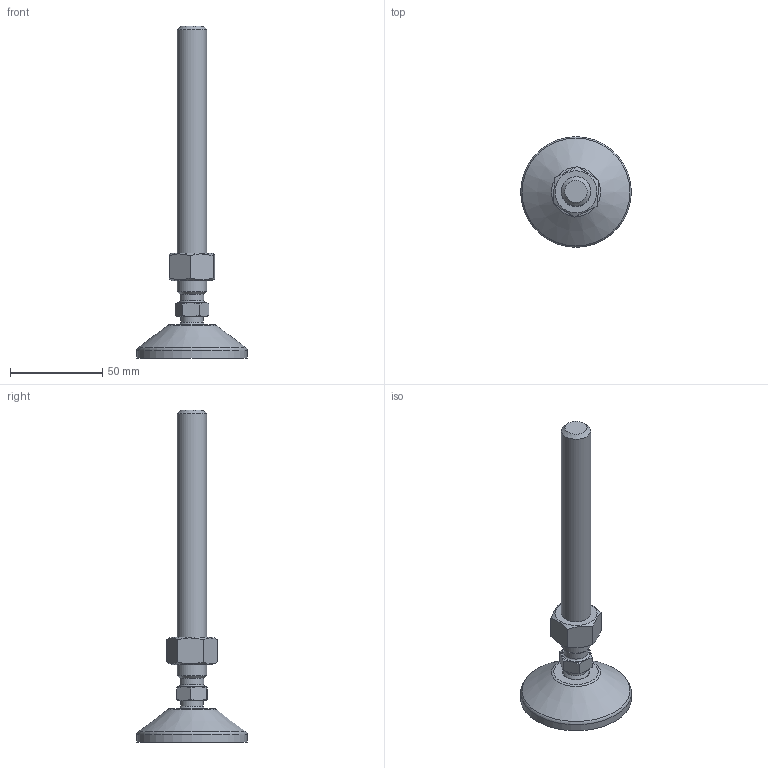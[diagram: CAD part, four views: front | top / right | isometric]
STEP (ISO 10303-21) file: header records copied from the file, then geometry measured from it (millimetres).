
FILE_DESCRIPTION(('STEP AP203'), '1');
FILE_NAME('栖闉罻', '', ('UNSPECIFIED'), ('UNSPECIFIED'), 'C3D Converter', 'C3D Toolkit', '');
FILE_SCHEMA(('CONFIG_CONTROL_DESIGN'));
Length unit declared in the file: millimetre
Products named in the file (4): A00020.116150; A00015.1060
Assembly tree (3 placements, depth 3):
  (unnamed)
    A00020.116150
      (unnamed)
    A00015.1060
Bounding box: 60 x 60 x 180 mm (x, y, z)
Volume: 58106.3 mm3; surface area: 21172.7 mm2
Topology: 3 solids, 3 shells, 163 faces, 430 edges, 285 vertices
Faces by surface type: plane 86, cylinder 34, torus 21, cone 20, sphere 2
Full cylindrical faces by diameter (mm): 4 x8, 12 x1, 13 x1, 13.835 x1, 14.3 x1, 15 x2, 15.5 x1, 16 x1, 50.5 x1, 60 x1
Entity records: 8670 total; most frequent: CARTESIAN_POINT 3262, DIRECTION 814, ORIENTED_EDGE 790, EDGE_CURVE 395, AXIS2_PLACEMENT_3D 337, VERTEX_POINT 284, EDGE_LOOP 211, FACE_BOUND 174
